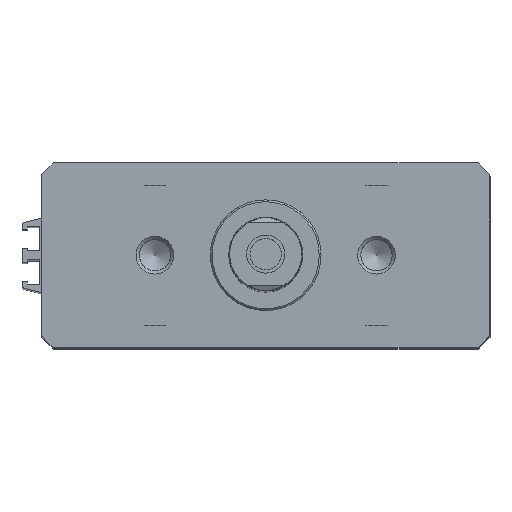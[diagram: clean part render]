
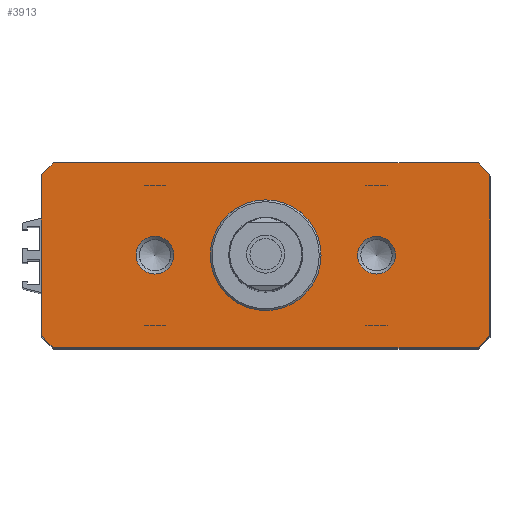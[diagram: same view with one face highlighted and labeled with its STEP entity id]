
A CAD part, top view. The second image highlights one B-rep face of the part: STEP entity #3913.
In plain terms, the highlighted planar face has unit normal (0, 0, 1) as drawn and (0, 0, -1) by its records, which use the part's own axes.
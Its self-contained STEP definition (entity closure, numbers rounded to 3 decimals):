
#2858=CARTESIAN_POINT('',(-15.,0.0,-10.5));
#2859=VERTEX_POINT('',#2858);
#2860=CARTESIAN_POINT('',(0.0,0.0,-10.5));
#2861=DIRECTION('',(0.0,0.0,1.0));
#2862=DIRECTION('',(-1.0,0.0,0.0));
#2863=AXIS2_PLACEMENT_3D('',#2860,#2861,#2862);
#2864=CIRCLE('',#2863,15.0);
#2865=EDGE_CURVE('',#2859,#2859,#2864,.T.);
#3323=CARTESIAN_POINT('',(24.9,0.0,-10.5));
#3324=VERTEX_POINT('',#3323);
#3325=CARTESIAN_POINT('',(30.0,0.0,-10.5));
#3326=DIRECTION('',(0.0,0.0,1.0));
#3327=DIRECTION('',(-1.0,0.0,0.0));
#3328=AXIS2_PLACEMENT_3D('',#3325,#3326,#3327);
#3329=CIRCLE('',#3328,5.1);
#3330=EDGE_CURVE('',#3324,#3324,#3329,.T.);
#3373=CARTESIAN_POINT('',(-35.1,0.0,-10.5));
#3374=VERTEX_POINT('',#3373);
#3375=CARTESIAN_POINT('',(-30.0,0.0,-10.5));
#3376=DIRECTION('',(0.0,0.0,1.0));
#3377=DIRECTION('',(-1.0,0.0,0.0));
#3378=AXIS2_PLACEMENT_3D('',#3375,#3376,#3377);
#3379=CIRCLE('',#3378,5.1);
#3380=EDGE_CURVE('',#3374,#3374,#3379,.T.);
#3684=CARTESIAN_POINT('',(57.55,25.0,-10.5));
#3685=VERTEX_POINT('',#3684);
#3686=CARTESIAN_POINT('',(-57.55,25.0,-10.5));
#3687=VERTEX_POINT('',#3686);
#3688=CARTESIAN_POINT('',(57.55,25.0,-10.5));
#3689=DIRECTION('',(-1.0,0.0,0.0));
#3690=VECTOR('',#3689,115.1);
#3691=LINE('',#3688,#3690);
#3692=EDGE_CURVE('',#3685,#3687,#3691,.T.);
#3721=CARTESIAN_POINT('',(-60.75,21.8,-10.5));
#3722=VERTEX_POINT('',#3721);
#3723=CARTESIAN_POINT('',(-57.55,25.0,-10.5));
#3724=DIRECTION('',(-0.707,-0.707,0.0));
#3725=VECTOR('',#3724,4.525);
#3726=LINE('',#3723,#3725);
#3727=EDGE_CURVE('',#3687,#3722,#3726,.T.);
#3745=CARTESIAN_POINT('',(-60.75,-21.8,-10.5));
#3746=VERTEX_POINT('',#3745);
#3747=CARTESIAN_POINT('',(-60.75,21.8,-10.5));
#3748=DIRECTION('',(0.0,-1.0,0.0));
#3749=VECTOR('',#3748,43.6);
#3750=LINE('',#3747,#3749);
#3751=EDGE_CURVE('',#3722,#3746,#3750,.T.);
#3772=CARTESIAN_POINT('',(-57.55,-25.0,-10.5));
#3773=VERTEX_POINT('',#3772);
#3774=CARTESIAN_POINT('',(-60.75,-21.8,-10.5));
#3775=DIRECTION('',(0.707,-0.707,0.0));
#3776=VECTOR('',#3775,4.525);
#3777=LINE('',#3774,#3776);
#3778=EDGE_CURVE('',#3746,#3773,#3777,.T.);
#3796=CARTESIAN_POINT('',(57.55,-25.0,-10.5));
#3797=VERTEX_POINT('',#3796);
#3798=CARTESIAN_POINT('',(-57.55,-25.0,-10.5));
#3799=DIRECTION('',(1.0,0.0,0.0));
#3800=VECTOR('',#3799,115.1);
#3801=LINE('',#3798,#3800);
#3802=EDGE_CURVE('',#3773,#3797,#3801,.T.);
#3826=CARTESIAN_POINT('',(60.75,-21.8,-10.5));
#3827=VERTEX_POINT('',#3826);
#3828=CARTESIAN_POINT('',(57.55,-25.0,-10.5));
#3829=DIRECTION('',(0.707,0.707,0.0));
#3830=VECTOR('',#3829,4.525);
#3831=LINE('',#3828,#3830);
#3832=EDGE_CURVE('',#3797,#3827,#3831,.T.);
#3850=CARTESIAN_POINT('',(60.75,21.8,-10.5));
#3851=VERTEX_POINT('',#3850);
#3852=CARTESIAN_POINT('',(60.75,-21.8,-10.5));
#3853=DIRECTION('',(0.0,1.0,0.0));
#3854=VECTOR('',#3853,43.6);
#3855=LINE('',#3852,#3854);
#3856=EDGE_CURVE('',#3827,#3851,#3855,.T.);
#3877=CARTESIAN_POINT('',(60.75,21.8,-10.5));
#3878=DIRECTION('',(-0.707,0.707,0.0));
#3879=VECTOR('',#3878,4.525);
#3880=LINE('',#3877,#3879);
#3881=EDGE_CURVE('',#3851,#3685,#3880,.T.);
#3889=CARTESIAN_POINT('',(0.,0.,-10.5));
#3890=DIRECTION('',(0.0,0.0,1.0));
#3891=DIRECTION('',(1.0,0.0,0.0));
#3892=AXIS2_PLACEMENT_3D('',#3889,#3890,#3891);
#3893=PLANE('',#3892);
#3894=ORIENTED_EDGE('',*,*,#3692,.F.);
#3895=ORIENTED_EDGE('',*,*,#3881,.F.);
#3896=ORIENTED_EDGE('',*,*,#3856,.F.);
#3897=ORIENTED_EDGE('',*,*,#3832,.F.);
#3898=ORIENTED_EDGE('',*,*,#3802,.F.);
#3899=ORIENTED_EDGE('',*,*,#3778,.F.);
#3900=ORIENTED_EDGE('',*,*,#3751,.F.);
#3901=ORIENTED_EDGE('',*,*,#3727,.F.);
#3902=EDGE_LOOP('',(#3894,#3895,#3896,#3897,#3898,#3899,#3900,#3901));
#3903=FACE_OUTER_BOUND('',#3902,.T.);
#3904=ORIENTED_EDGE('',*,*,#2865,.T.);
#3905=EDGE_LOOP('',(#3904));
#3906=FACE_BOUND('',#3905,.T.);
#3907=ORIENTED_EDGE('',*,*,#3330,.T.);
#3908=EDGE_LOOP('',(#3907));
#3909=FACE_BOUND('',#3908,.T.);
#3910=ORIENTED_EDGE('',*,*,#3380,.T.);
#3911=EDGE_LOOP('',(#3910));
#3912=FACE_BOUND('',#3911,.T.);
#3913=ADVANCED_FACE('',(#3903,#3906,#3909,#3912),#3893,.F.);
